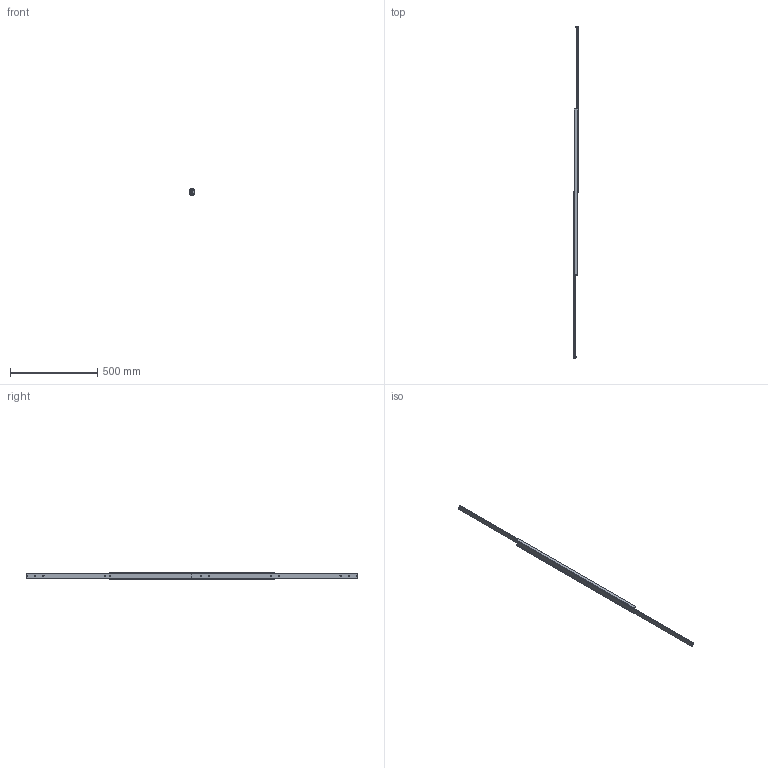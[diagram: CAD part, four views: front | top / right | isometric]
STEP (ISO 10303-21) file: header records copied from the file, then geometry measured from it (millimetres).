
FILE_DESCRIPTION(/* description */ (''),/* implementation_level */ '2;1');
FILE_NAME(/* name */ 'F:\MX-DTP40.095_ausgefahren.stp',/* time_stamp */ '2020-11-06T14:31:14+01:00',/* author */ ('Miluxor'),/* organization */ (''),/* preprocessor_version */ 'ST-DEVELOPER v16.13',/* originating_system */ 'AutoCAD Mechanical',/* authorisation */ '');
FILE_SCHEMA (('AUTOMOTIVE_DESIGN { 1 0 10303 214 3 1 1 }'));
Length unit declared in the file: millimetre
Products named in the file (1): Product
Bounding box: 24 x 1900 x 40 mm (x, y, z)
Volume: 712410.4 mm3; surface area: 344053.9 mm2
Topology: 89 solids, 89 shells, 496 faces, 1266 edges, 840 vertices
Faces by surface type: plane 344, cylinder 82, sphere 56, bspline 8, torus 6
Full cylindrical faces by diameter (mm): 6 x68, 10 x2
Entity records: 19785 total; most frequent: CARTESIAN_POINT 8099, DIRECTION 2272, ORIENTED_EDGE 2152, EDGE_CURVE 1076, VERTEX_POINT 838, LINE 834, VECTOR 834, AXIS2_PLACEMENT_3D 719
